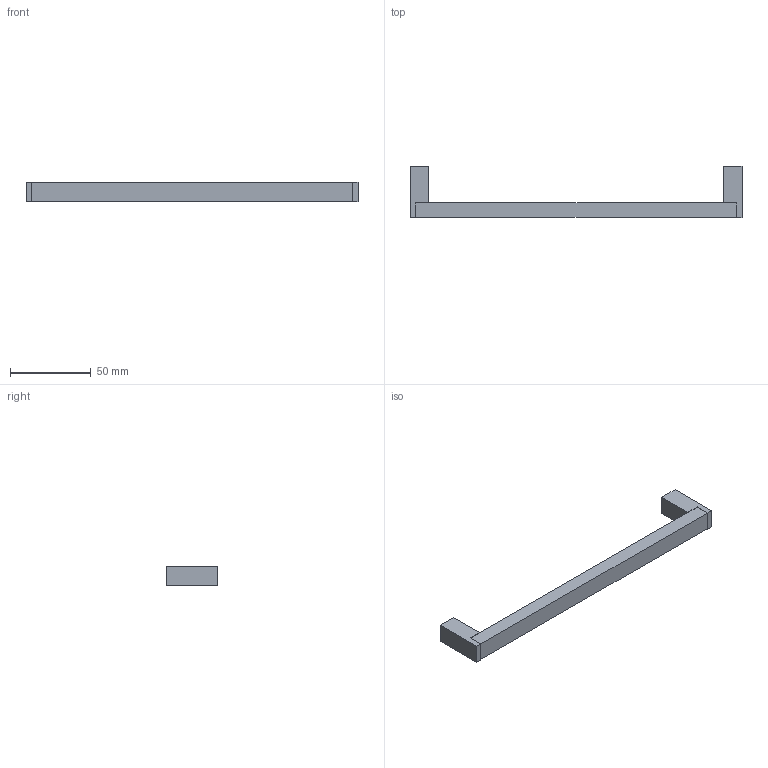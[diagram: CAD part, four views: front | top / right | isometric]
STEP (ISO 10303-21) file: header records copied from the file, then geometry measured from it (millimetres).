
FILE_DESCRIPTION( ( 'STEP AP214' ), '1' );
FILE_NAME( 'C:/Users/kulkarni/Desktop/Apurva/2015/Prodecor_2016/Cadfiles/bermeo/9208076.stp', ' ', ( ' ' ), ( ' ' ), 'PSStep 15.0.47', 'PARTsolutions', ' ' );
FILE_SCHEMA( ( 'AUTOMOTIVE_DESIGN { 1 0 10303 214 1 1 1 1 }' ) );
Length unit declared in the file: millimetre
Products named in the file (1): _
Bounding box: 205 x 32 x 12.15 mm (x, y, z)
Volume: 27208 mm3; surface area: 11342.2 mm2
Topology: 1 solids, 1 shells, 26 faces, 62 edges, 40 vertices
Faces by surface type: plane 24, cylinder 2
Full cylindrical faces by diameter (mm): 5 x2
Entity records: 952 total; most frequent: CARTESIAN_POINT 127, ORIENTED_EDGE 120, DIRECTION 118, EDGE_CURVE 60, LINE 56, VECTOR 56, VERTEX_POINT 40, AXIS2_PLACEMENT_3D 31
